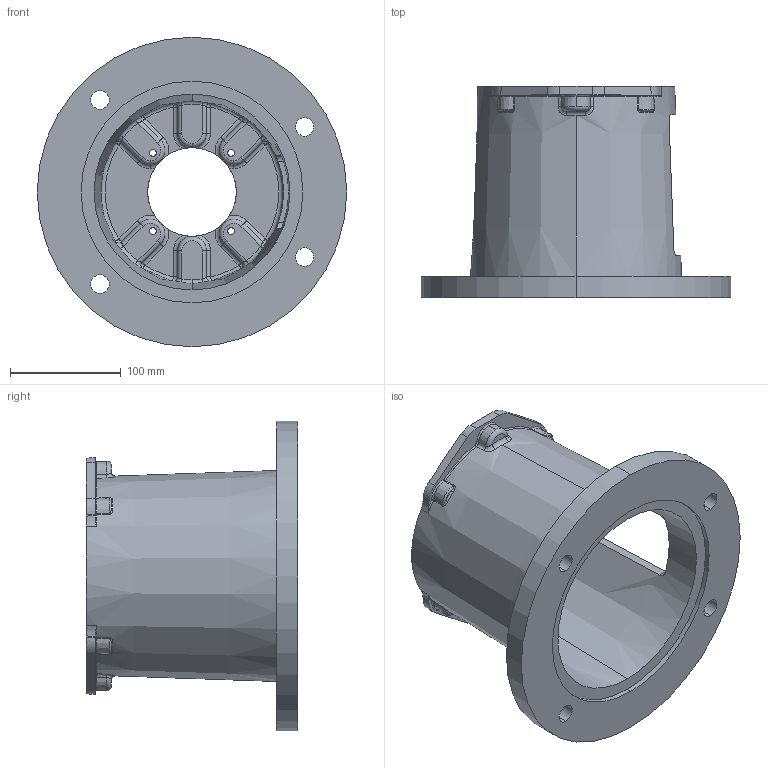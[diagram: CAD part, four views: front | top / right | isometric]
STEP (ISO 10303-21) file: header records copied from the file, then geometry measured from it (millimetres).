
FILE_DESCRIPTION (( 'STEP AP203' ), '1' );
FILE_NAME ('E7877580MS.STEP', '2014-11-04T15:46:52', ( '' ), ( '' ), 'SwSTEP 2.0', 'SolidWorks 2014', '' );
FILE_SCHEMA (( 'CONFIG_CONTROL_DESIGN' ));
Length unit declared in the file: inch
Products named in the file (1): E7877580MS
Bounding box: 279.4 x 190.5 x 279.4 mm (x, y, z)
Volume: 1552261.2 mm3; surface area: 323913.5 mm2
Topology: 1 solids, 1 shells, 335 faces, 841 edges, 498 vertices
Faces by surface type: torus 97, cylinder 82, bspline 64, plane 50, sphere 24, cone 18
Entity records: 13433 total; most frequent: CARTESIAN_POINT 5667, DIRECTION 1658, ORIENTED_EDGE 1658, EDGE_CURVE 829, AXIS2_PLACEMENT_3D 751, VERTEX_POINT 498, CIRCLE 479, EDGE_LOOP 357
